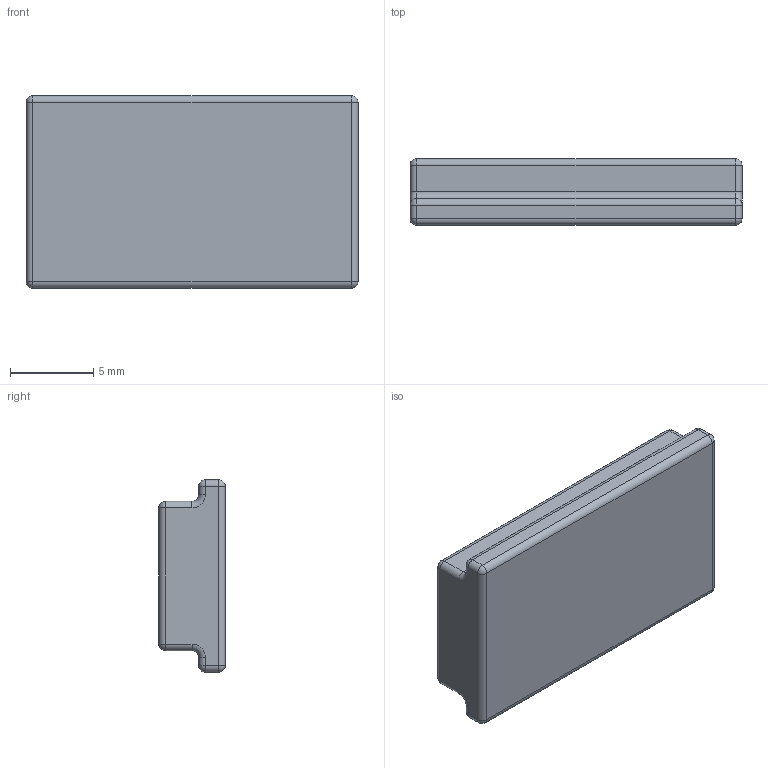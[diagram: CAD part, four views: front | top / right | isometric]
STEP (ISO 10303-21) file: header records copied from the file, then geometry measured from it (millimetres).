
FILE_DESCRIPTION (( 'STEP AP203' ), '1' );
FILE_NAME ('2000331 Befstigungsset magnetisch.STEP', '2022-11-02T07:28:39', ( '' ), ( '' ), 'SwSTEP 2.0', 'SolidWorks 2021', '' );
FILE_SCHEMA (( 'CONFIG_CONTROL_DESIGN' ));
Length unit declared in the file: millimetre
Products named in the file (1): 2000331 Befstigungsset magnetisch
Bounding box: 20 x 4 x 11.6 mm (x, y, z)
Volume: 798.4 mm3; surface area: 666.2 mm2
Topology: 1 solids, 1 shells, 50 faces, 112 edges, 52 vertices
Faces by surface type: cylinder 24, sphere 12, plane 10, torus 4
Entity records: 1341 total; most frequent: DIRECTION 254, CARTESIAN_POINT 203, ORIENTED_EDGE 200, AXIS2_PLACEMENT_3D 103, EDGE_CURVE 100, CIRCLE 52, VERTEX_POINT 52, EDGE_LOOP 50
